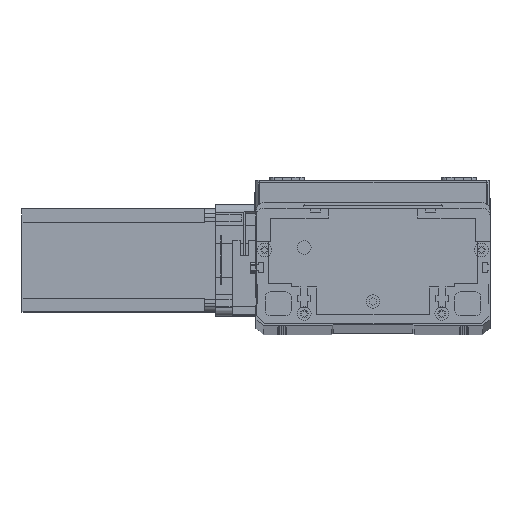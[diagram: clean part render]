
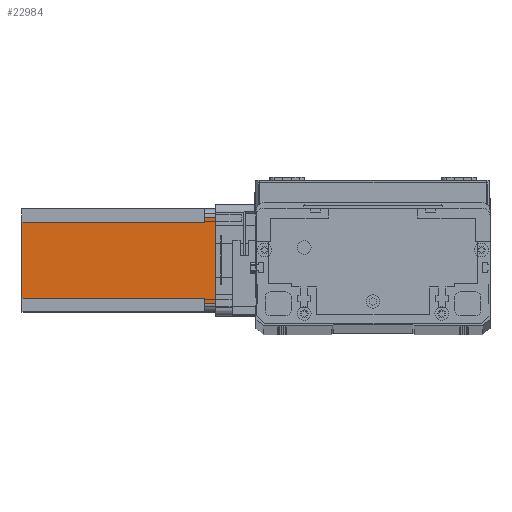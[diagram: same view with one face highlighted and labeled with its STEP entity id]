
A CAD part, top view. The second image highlights one B-rep face of the part: STEP entity #22984.
In plain terms, the highlighted planar face has unit normal (0, 0, 1) as drawn and (0, -1, 0) by its records, which use the part's own axes.
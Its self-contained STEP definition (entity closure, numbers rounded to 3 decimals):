
#255 = ORIENTED_EDGE ( 'NONE', *, *, #13551, .T. ) ;
#603 = LINE ( 'NONE', #22077, #11477 ) ;
#699 = VERTEX_POINT ( 'NONE', #3346 ) ;
#1510 = ORIENTED_EDGE ( 'NONE', *, *, #19743, .F. ) ;
#2577 = DIRECTION ( 'NONE',  ( 0., 0., -1. ) ) ;
#3346 = CARTESIAN_POINT ( 'NONE',  ( 5., 0., -6.5 ) ) ;
#3661 = DIRECTION ( 'NONE',  ( 1., 0., 0. ) ) ;
#4586 = CARTESIAN_POINT ( 'NONE',  ( 8., 0., -6.5 ) ) ;
#4602 = VERTEX_POINT ( 'NONE', #18566 ) ;
#4981 = ORIENTED_EDGE ( 'NONE', *, *, #17857, .F. ) ;
#5221 = VERTEX_POINT ( 'NONE', #11587 ) ;
#5615 = VERTEX_POINT ( 'NONE', #6618 ) ;
#5684 = LINE ( 'NONE', #27434, #27110 ) ;
#6618 = CARTESIAN_POINT ( 'NONE',  ( 8., 0., -112.5 ) ) ;
#7177 = EDGE_LOOP ( 'NONE', ( #24219, #255, #4981, #13162, #27050, #17365, #12490, #1510 ) ) ;
#7765 = CARTESIAN_POINT ( 'NONE',  ( 55., 0., -112.5 ) ) ;
#7903 = CARTESIAN_POINT ( 'NONE',  ( 52., 0., -112.5 ) ) ;
#8506 = CARTESIAN_POINT ( 'NONE',  ( 8., 0., -6.5 ) ) ;
#9508 = LINE ( 'NONE', #10463, #25212 ) ;
#10463 = CARTESIAN_POINT ( 'NONE',  ( 8., 0., -112.5 ) ) ;
#10754 = DIRECTION ( 'NONE',  ( 0., 0., -1. ) ) ;
#11058 = LINE ( 'NONE', #23552, #19536 ) ;
#11413 = EDGE_CURVE ( 'NONE', #20500, #4602, #603, .T. ) ;
#11477 = VECTOR ( 'NONE', #17941, 1000. ) ;
#11587 = CARTESIAN_POINT ( 'NONE',  ( 55., 0., 0. ) ) ;
#12490 = ORIENTED_EDGE ( 'NONE', *, *, #18652, .T. ) ;
#13162 = ORIENTED_EDGE ( 'NONE', *, *, #14281, .T. ) ;
#13551 = EDGE_CURVE ( 'NONE', #4602, #5221, #23428, .T. ) ;
#13950 = AXIS2_PLACEMENT_3D ( 'NONE', #19841, #15577, #2577 ) ;
#14281 = EDGE_CURVE ( 'NONE', #22636, #699, #11058, .T. ) ;
#15330 = FACE_OUTER_BOUND ( 'NONE', #7177, .T. ) ;
#15358 = EDGE_CURVE ( 'NONE', #22943, #699, #16431, .T. ) ;
#15577 = DIRECTION ( 'NONE',  ( 0., -1., 0. ) ) ;
#16431 = LINE ( 'NONE', #8506, #26985 ) ;
#17365 = ORIENTED_EDGE ( 'NONE', *, *, #17764, .F. ) ;
#17625 = VECTOR ( 'NONE', #3661, 1000. ) ;
#17764 = EDGE_CURVE ( 'NONE', #5615, #22943, #9508, .T. ) ;
#17857 = EDGE_CURVE ( 'NONE', #22636, #5221, #23862, .T. ) ;
#17941 = DIRECTION ( 'NONE',  ( 1., 0., 0. ) ) ;
#17953 = CARTESIAN_POINT ( 'NONE',  ( 52., 0., -6.5 ) ) ;
#18566 = CARTESIAN_POINT ( 'NONE',  ( 55., 0., -6.5 ) ) ;
#18652 = EDGE_CURVE ( 'NONE', #5615, #23318, #18939, .T. ) ;
#18939 = LINE ( 'NONE', #19538, #23804 ) ;
#19122 = DIRECTION ( 'NONE',  ( 0., 0., -1. ) ) ;
#19536 = VECTOR ( 'NONE', #10754, 1000. ) ;
#19538 = CARTESIAN_POINT ( 'NONE',  ( 0., 0., -112.5 ) ) ;
#19743 = EDGE_CURVE ( 'NONE', #20500, #23318, #5684, .T. ) ;
#19841 = CARTESIAN_POINT ( 'NONE',  ( 0., 0., -112.5 ) ) ;
#20500 = VERTEX_POINT ( 'NONE', #17953 ) ;
#21197 = DIRECTION ( 'NONE',  ( 0., 0., 1. ) ) ;
#22077 = CARTESIAN_POINT ( 'NONE',  ( 52., 0., -6.5 ) ) ;
#22321 = DIRECTION ( 'NONE',  ( -1., 0., 0. ) ) ;
#22636 = VERTEX_POINT ( 'NONE', #25055 ) ;
#22790 = DIRECTION ( 'NONE',  ( 0., 0., 1. ) ) ;
#22943 = VERTEX_POINT ( 'NONE', #4586 ) ;
#22984 = ADVANCED_FACE ( 'NONE', ( #15330 ), #24011, .T. ) ;
#23318 = VERTEX_POINT ( 'NONE', #7903 ) ;
#23428 = LINE ( 'NONE', #7765, #27699 ) ;
#23552 = CARTESIAN_POINT ( 'NONE',  ( 5., 0., -112.5 ) ) ;
#23804 = VECTOR ( 'NONE', #25847, 1000. ) ;
#23862 = LINE ( 'NONE', #25832, #17625 ) ;
#24011 = PLANE ( 'NONE',  #13950 ) ;
#24219 = ORIENTED_EDGE ( 'NONE', *, *, #11413, .T. ) ;
#25055 = CARTESIAN_POINT ( 'NONE',  ( 5., 0., 0. ) ) ;
#25212 = VECTOR ( 'NONE', #21197, 1000. ) ;
#25832 = CARTESIAN_POINT ( 'NONE',  ( 0., 0., 0. ) ) ;
#25847 = DIRECTION ( 'NONE',  ( 1., 0., 0. ) ) ;
#26985 = VECTOR ( 'NONE', #22321, 1000. ) ;
#27050 = ORIENTED_EDGE ( 'NONE', *, *, #15358, .F. ) ;
#27110 = VECTOR ( 'NONE', #19122, 1000. ) ;
#27434 = CARTESIAN_POINT ( 'NONE',  ( 52., 0., -112.5 ) ) ;
#27699 = VECTOR ( 'NONE', #22790, 1000. ) ;
